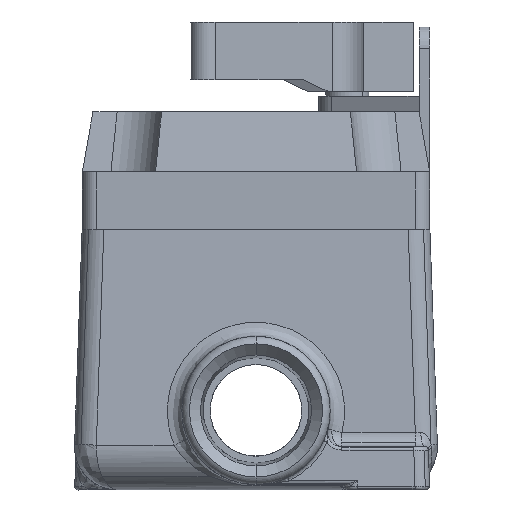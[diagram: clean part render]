
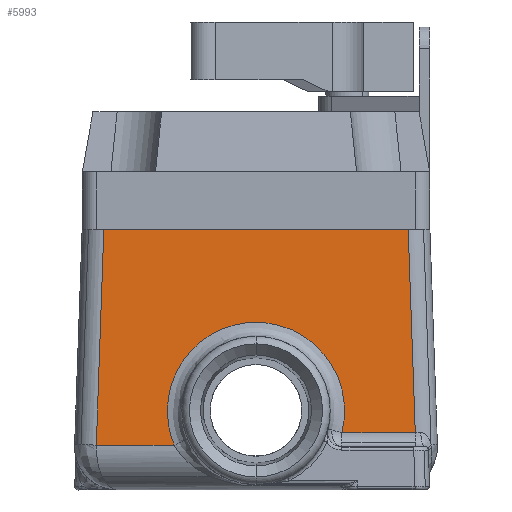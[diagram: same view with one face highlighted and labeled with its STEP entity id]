
A CAD part, left-side view. The second image highlights one B-rep face of the part: STEP entity #5993.
In plain terms, the highlighted planar face has unit normal (-0.999, 0, 0.035).
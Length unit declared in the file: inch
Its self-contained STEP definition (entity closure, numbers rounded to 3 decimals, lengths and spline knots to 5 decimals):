
#2007 = VECTOR ( 'NONE', #35217, 39.37008 ) ;
#3599 = CARTESIAN_POINT ( 'NONE',  ( -2.3109, 1.31102, 0.04573 ) ) ;
#4475 = EDGE_CURVE ( 'NONE', #6225, #22065, #19013, .T. ) ;
#5560 = EDGE_CURVE ( 'NONE', #20023, #8842, #34743, .T. ) ;
#5993 = ADVANCED_FACE ( 'NONE', ( #23991 ), #31515, .T. ) ;
#6225 = VERTEX_POINT ( 'NONE', #29551 ) ;
#6756 = EDGE_CURVE ( 'NONE', #13568, #8842, #36922, .T. ) ;
#7110 = EDGE_CURVE ( 'NONE', #22065, #13568, #40034, .T. ) ;
#7827 = CARTESIAN_POINT ( 'NONE',  ( -2.35657, -0.88239, -1.26187 ) ) ;
#8052 = CARTESIAN_POINT ( 'NONE',  ( -2.36126, 0.92699, -1.39621 ) ) ;
#8719 = CARTESIAN_POINT ( 'NONE',  ( -2.31468, -1.71002, -0.0625 ) ) ;
#8842 = VERTEX_POINT ( 'NONE', #38010 ) ;
#10353 = ORIENTED_EDGE ( 'NONE', *, *, #7110, .F. ) ;
#13346 = CARTESIAN_POINT ( 'NONE',  ( -2.31468, -1.3148, -0.0625 ) ) ;
#13470 = ORIENTED_EDGE ( 'NONE', *, *, #4475, .F. ) ;
#13568 = VERTEX_POINT ( 'NONE', #24220 ) ;
#14372 = ORIENTED_EDGE ( 'NONE', *, *, #31153, .F. ) ;
#15620 = CARTESIAN_POINT ( 'NONE',  ( -2.34274, 0.05668, -0.86596 ) ) ;
#16639 = CARTESIAN_POINT ( 'NONE',  ( -2.37595, -1.37606, -1.81686 ) ) ;
#16983 = AXIS2_PLACEMENT_3D ( 'NONE', #38112, #37872, #34231 ) ;
#18442 = DIRECTION ( 'NONE',  ( 0.035, -0.035, 0.999 ) ) ;
#18781 = CARTESIAN_POINT ( 'NONE',  ( -2.3797, 0.70635, -1.92441 ) ) ;
#19013 =( BOUNDED_CURVE ( )  B_SPLINE_CURVE ( 3, ( #30188, #7827, #44325, #15620, #22175, #8052, #18781 ),
 .UNSPECIFIED., .F., .F. ) 
 B_SPLINE_CURVE_WITH_KNOTS ( ( 4, 3, 4 ),
 ( 4.46493, 6.3573, 8.24966 ),
 .UNSPECIFIED. ) 
 CURVE ( )  GEOMETRIC_REPRESENTATION_ITEM ( )  RATIONAL_B_SPLINE_CURVE ( ( 1., 0.723, 0.723, 1., 0.723, 0.723, 1. ) ) 
 REPRESENTATION_ITEM ( '' )  );
#20023 = VERTEX_POINT ( 'NONE', #13346 ) ;
#21060 = DIRECTION ( 'NONE',  ( -0.035, -0.035, -0.999 ) ) ;
#22065 = VERTEX_POINT ( 'NONE', #28163 ) ;
#22175 = CARTESIAN_POINT ( 'NONE',  ( -2.34422, 0.62754, -0.90835 ) ) ;
#22813 = DIRECTION ( 'NONE',  ( 0., 1., 0. ) ) ;
#23519 = EDGE_CURVE ( 'NONE', #33703, #6225, #26463, .T. ) ;
#23991 = FACE_OUTER_BOUND ( 'NONE', #46657, .T. ) ;
#24220 = CARTESIAN_POINT ( 'NONE',  ( -2.3797, 1.37982, -1.92441 ) ) ;
#25436 = DIRECTION ( 'NONE',  ( 0., 1., 0. ) ) ;
#25691 = CARTESIAN_POINT ( 'NONE',  ( -2.3797, -0.75, -1.92441 ) ) ;
#26463 = LINE ( 'NONE', #41298, #34829 ) ;
#28163 = CARTESIAN_POINT ( 'NONE',  ( -2.3797, 0.70635, -1.92441 ) ) ;
#29044 = LINE ( 'NONE', #40731, #39139 ) ;
#29551 = CARTESIAN_POINT ( 'NONE',  ( -2.37595, -0.74218, -1.81686 ) ) ;
#30188 = CARTESIAN_POINT ( 'NONE',  ( -2.37595, -0.74218, -1.81686 ) ) ;
#30877 = ORIENTED_EDGE ( 'NONE', *, *, #6756, .F. ) ;
#31153 = EDGE_CURVE ( 'NONE', #20023, #33703, #29044, .T. ) ;
#31515 = PLANE ( 'NONE',  #16983 ) ;
#31877 = ORIENTED_EDGE ( 'NONE', *, *, #5560, .T. ) ;
#33703 = VERTEX_POINT ( 'NONE', #16639 ) ;
#34231 = DIRECTION ( 'NONE',  ( 0., 1., 0. ) ) ;
#34743 = LINE ( 'NONE', #8719, #2007 ) ;
#34829 = VECTOR ( 'NONE', #22813, 39.37008 ) ;
#35217 = DIRECTION ( 'NONE',  ( 0., 1., 0. ) ) ;
#36922 = LINE ( 'NONE', #3599, #47335 ) ;
#37147 = ORIENTED_EDGE ( 'NONE', *, *, #23519, .F. ) ;
#37872 = DIRECTION ( 'NONE',  ( -0.999, 0., 0.035 ) ) ;
#38010 = CARTESIAN_POINT ( 'NONE',  ( -2.31468, 1.3148, -0.0625 ) ) ;
#38112 = CARTESIAN_POINT ( 'NONE',  ( -2.3125, -1.5, 0. ) ) ;
#39139 = VECTOR ( 'NONE', #21060, 39.37008 ) ;
#40034 = LINE ( 'NONE', #25691, #48025 ) ;
#40731 = CARTESIAN_POINT ( 'NONE',  ( -2.30991, -1.31003, 0.07403 ) ) ;
#41298 = CARTESIAN_POINT ( 'NONE',  ( -2.37595, -1.3125, -1.81686 ) ) ;
#44325 = CARTESIAN_POINT ( 'NONE',  ( -2.34126, -0.51418, -0.82358 ) ) ;
#46657 = EDGE_LOOP ( 'NONE', ( #31877, #30877, #10353, #13470, #37147, #14372 ) ) ;
#47335 = VECTOR ( 'NONE', #18442, 39.37008 ) ;
#48025 = VECTOR ( 'NONE', #25436, 39.37008 ) ;
